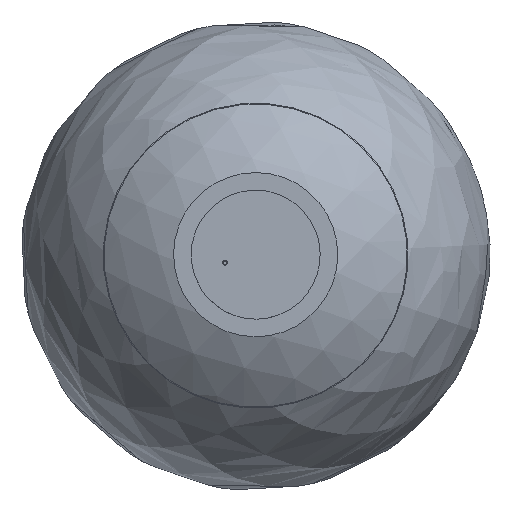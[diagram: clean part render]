
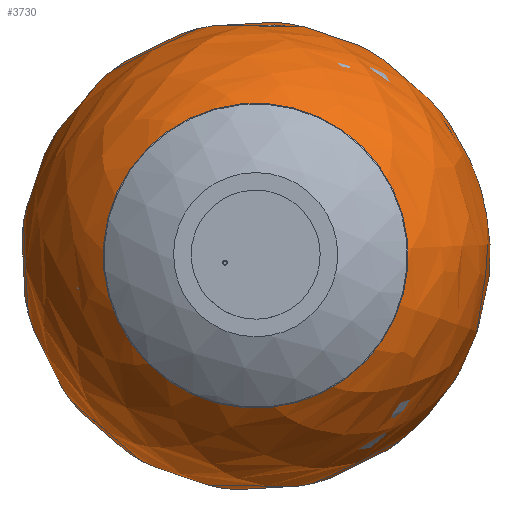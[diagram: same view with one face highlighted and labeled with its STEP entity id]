
A CAD part, top view. The second image highlights one B-rep face of the part: STEP entity #3730.
In plain terms, the highlighted free-form (B-spline) face has degree [2, 2] with [5, 9] control points.
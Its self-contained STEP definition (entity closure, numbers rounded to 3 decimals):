
#13=(
BOUNDED_SURFACE()
B_SPLINE_SURFACE(2,2,((#6796,#6797,#6798,#6799,#6800,#6801,#6802,#6803,
#6804),(#6805,#6806,#6807,#6808,#6809,#6810,#6811,#6812,#6813),(#6814,#6815,
#6816,#6817,#6818,#6819,#6820,#6821,#6822),(#6823,#6824,#6825,#6826,#6827,
#6828,#6829,#6830,#6831),(#6832,#6833,#6834,#6835,#6836,#6837,#6838,#6839,
#6840)),.UNSPECIFIED.,.F.,.T.,.F.)
B_SPLINE_SURFACE_WITH_KNOTS((3,2,3),(3,2,2,2,3),(-1.265,0.153,
1.571),(-3.142,-1.571,0.,1.571,
3.142),.UNSPECIFIED.)
GEOMETRIC_REPRESENTATION_ITEM()
RATIONAL_B_SPLINE_SURFACE(((1.,0.707,1.,0.707,1.,
0.707,1.,0.707,1.),(0.759,0.537,
0.759,0.537,0.759,0.537,
0.759,0.537,0.759),(1.,0.707,
1.,0.707,1.,0.707,1.,0.707,1.),(0.759,
0.537,0.759,0.537,0.759,
0.537,0.759,0.537,0.759),
(1.,0.707,1.,0.707,1.,0.707,1.,0.707,
1.)))
REPRESENTATION_ITEM('')
SURFACE()
);
#1007=FACE_OUTER_BOUND('',#1257,.T.);
#1257=EDGE_LOOP('',(#3362,#3363,#3364));
#1455=CIRCLE('',#4207,60.371);
#1457=CIRCLE('',#4209,200.);
#1779=VERTEX_POINT('',#6793);
#1780=VERTEX_POINT('',#6841);
#2307=EDGE_CURVE('',#1779,#1779,#1455,.T.);
#2309=EDGE_CURVE('',#1780,#1779,#1457,.T.);
#3362=ORIENTED_EDGE('',*,*,#2309,.T.);
#3363=ORIENTED_EDGE('',*,*,#2307,.T.);
#3364=ORIENTED_EDGE('',*,*,#2309,.F.);
#3730=ADVANCED_FACE('',(#1007),#13,.F.);
#4207=AXIS2_PLACEMENT_3D('',#6794,#5353,#5354);
#4209=AXIS2_PLACEMENT_3D('',#6842,#5357,#5358);
#5353=DIRECTION('center_axis',(0.,0.,
-1.));
#5354=DIRECTION('ref_axis',(0.323,0.946,0.));
#5357=DIRECTION('center_axis',(-0.323,-0.946,0.));
#5358=DIRECTION('ref_axis',(0.946,-0.323,0.));
#6793=CARTESIAN_POINT('',(57.14,-19.484,390.706));
#6794=CARTESIAN_POINT('Origin',(0.,0.,
390.706));
#6796=CARTESIAN_POINT('Ctrl Pts',(57.14,-19.484,390.706));
#6797=CARTESIAN_POINT('Ctrl Pts',(37.656,-76.625,390.706));
#6798=CARTESIAN_POINT('Ctrl Pts',(-19.484,-57.14,390.706));
#6799=CARTESIAN_POINT('Ctrl Pts',(-76.625,-37.656,390.706));
#6800=CARTESIAN_POINT('Ctrl Pts',(-57.14,19.484,390.706));
#6801=CARTESIAN_POINT('Ctrl Pts',(-37.656,76.625,390.706));
#6802=CARTESIAN_POINT('Ctrl Pts',(19.484,57.14,390.706));
#6803=CARTESIAN_POINT('Ctrl Pts',(76.625,37.656,390.706));
#6804=CARTESIAN_POINT('Ctrl Pts',(57.14,-19.484,390.706));
#6805=CARTESIAN_POINT('Ctrl Pts',(211.979,-72.283,339.013));
#6806=CARTESIAN_POINT('Ctrl Pts',(139.696,-284.262,339.013));
#6807=CARTESIAN_POINT('Ctrl Pts',(-72.283,-211.979,339.013));
#6808=CARTESIAN_POINT('Ctrl Pts',(-284.262,-139.696,339.013));
#6809=CARTESIAN_POINT('Ctrl Pts',(-211.979,72.283,339.013));
#6810=CARTESIAN_POINT('Ctrl Pts',(-139.696,284.262,339.013));
#6811=CARTESIAN_POINT('Ctrl Pts',(72.283,211.979,339.013));
#6812=CARTESIAN_POINT('Ctrl Pts',(284.262,139.696,339.013));
#6813=CARTESIAN_POINT('Ctrl Pts',(211.979,-72.283,339.013));
#6814=CARTESIAN_POINT('Ctrl Pts',(187.182,-63.827,169.459));
#6815=CARTESIAN_POINT('Ctrl Pts',(123.355,-251.009,169.459));
#6816=CARTESIAN_POINT('Ctrl Pts',(-63.827,-187.182,169.459));
#6817=CARTESIAN_POINT('Ctrl Pts',(-251.009,-123.355,169.459));
#6818=CARTESIAN_POINT('Ctrl Pts',(-187.182,63.827,169.459));
#6819=CARTESIAN_POINT('Ctrl Pts',(-123.355,251.009,169.459));
#6820=CARTESIAN_POINT('Ctrl Pts',(63.827,187.182,169.459));
#6821=CARTESIAN_POINT('Ctrl Pts',(251.009,123.355,169.459));
#6822=CARTESIAN_POINT('Ctrl Pts',(187.182,-63.827,169.459));
#6823=CARTESIAN_POINT('Ctrl Pts',(162.385,-55.372,-0.095));
#6824=CARTESIAN_POINT('Ctrl Pts',(107.013,-217.757,-0.095));
#6825=CARTESIAN_POINT('Ctrl Pts',(-55.372,-162.385,-0.095));
#6826=CARTESIAN_POINT('Ctrl Pts',(-217.757,-107.013,-0.095));
#6827=CARTESIAN_POINT('Ctrl Pts',(-162.385,55.372,-0.095));
#6828=CARTESIAN_POINT('Ctrl Pts',(-107.013,217.757,-0.095));
#6829=CARTESIAN_POINT('Ctrl Pts',(55.372,162.385,-0.095));
#6830=CARTESIAN_POINT('Ctrl Pts',(217.757,107.013,-0.095));
#6831=CARTESIAN_POINT('Ctrl Pts',(162.385,-55.372,-0.095));
#6832=CARTESIAN_POINT('Ctrl Pts',(0.,0.,
0.));
#6833=CARTESIAN_POINT('Ctrl Pts',(0.,0.,
0.));
#6834=CARTESIAN_POINT('Ctrl Pts',(0.,0.,
0.));
#6835=CARTESIAN_POINT('Ctrl Pts',(0.,0.,
0.));
#6836=CARTESIAN_POINT('Ctrl Pts',(0.,0.,
0.));
#6837=CARTESIAN_POINT('Ctrl Pts',(0.,0.,
0.));
#6838=CARTESIAN_POINT('Ctrl Pts',(0.,0.,
0.));
#6839=CARTESIAN_POINT('Ctrl Pts',(0.,0.,
0.));
#6840=CARTESIAN_POINT('Ctrl Pts',(0.,0.,
0.));
#6841=CARTESIAN_POINT('',(0.,0.,0.));
#6842=CARTESIAN_POINT('Origin',(0.105,-0.036,200.));
